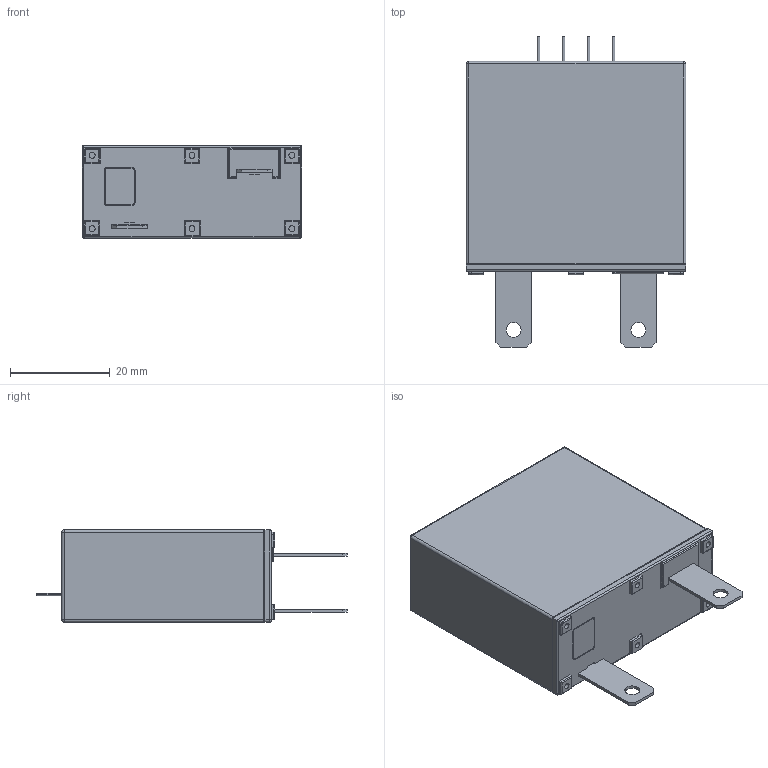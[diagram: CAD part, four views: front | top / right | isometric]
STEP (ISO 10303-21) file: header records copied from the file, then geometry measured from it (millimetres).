
FILE_DESCRIPTION((''),'2;1');
FILE_NAME('TFMOV40K-18-2IT-20200620','2020-08-12T',('SET-01114'),(''),'PRO/ENGINEER BY PARAMETRIC TECHNOLOGY CORPORATION, 2012310','PRO/ENGINEER BY PARAMETRIC TECHNOLOGY CORPORATION, 2012310','');
FILE_SCHEMA(('CONFIG_CONTROL_DESIGN','SHAPE_APPEARANCE_LAYERS_GROUPS'));
Length unit declared in the file: millimetre
Products named in the file (1): TFMOV40K-18-2IT-20200620
Bounding box: 44 x 62.2 x 18.5 mm (x, y, z)
Volume: 34277.4 mm3; surface area: 7634.1 mm2
Topology: 1 solids, 2 shells, 219 faces, 514 edges, 318 vertices
Faces by surface type: plane 111, cylinder 94, torus 6, sphere 6, bspline 2
Entity records: 8190 total; most frequent: CARTESIAN_POINT 1345, DIRECTION 1030, ORIENTED_EDGE 1028, PRESENTATION_STYLE_ASSIGNMENT 533, STYLED_ITEM 515, CURVE_STYLE 514, EDGE_CURVE 514, VECTOR 352
